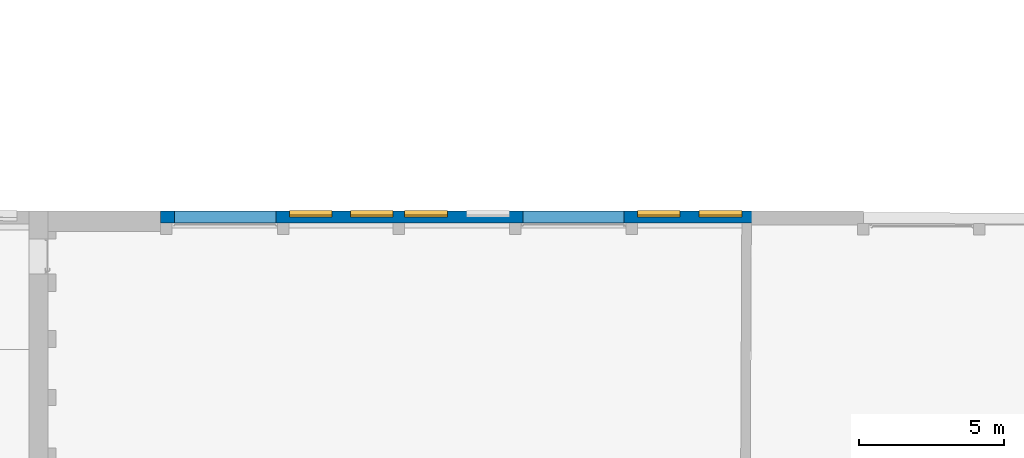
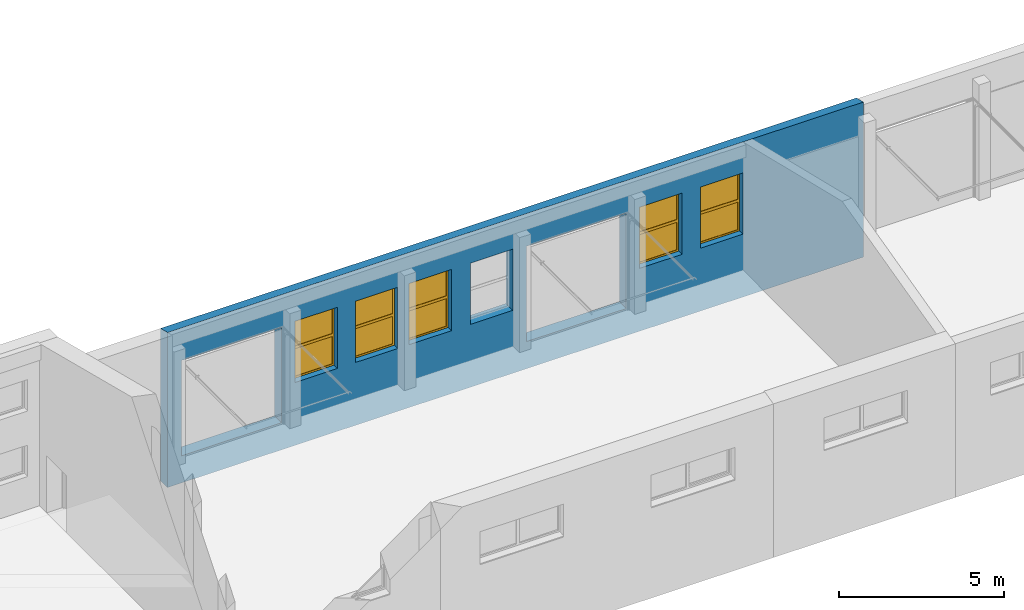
# One storey, part 109 of 301: 5 windows, 1 wall, 8 openings.
"""IFC2X3 building model written with IfcOpenShell, lengths in millimetres."""

from ifc_helpers import new_model, entity, si_unit, converted_unit, derived_unit, money_unit, direction, frame, origin_with_axes, place, context, subcontext, project, spatial, open_shell, faceted_brep, surface_model, source, transform, mapped, material, type_object, element, fill, save


model = new_model("IFC2X3")

# Units and contexts
model_context = context("Model", 3, precision=0.01, world=origin_with_axes(), true_north=direction((0.0, 1.0)))
body_context = subcontext(model_context, "Body", "Model", "MODEL_VIEW")
ifc_project = project(units=[si_unit("LENGTHUNIT", "METRE", prefix="MILLI"), si_unit("AREAUNIT", "SQUARE_METRE"), si_unit("VOLUMEUNIT", "CUBIC_METRE"), converted_unit("PLANEANGLEUNIT", "DEGREE", entity("IfcPlaneAngleMeasure", 0.0174532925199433), si_unit("PLANEANGLEUNIT", "RADIAN"), dimensions=[0, 0, 0, 0, 0, 0, 0]), money_unit("EUR"), converted_unit("TIMEUNIT", "Year", entity("IfcTimeMeasure", 31557600.0), si_unit("TIMEUNIT", "SECOND"), dimensions=[0, 0, 1, 0, 0, 0, 0]), si_unit("MASSUNIT", "GRAM", prefix="KILO"), si_unit("THERMODYNAMICTEMPERATUREUNIT", "DEGREE_CELSIUS"), si_unit("LUMINOUSINTENSITYUNIT", "LUMEN"), si_unit("ENERGYUNIT", "JOULE", prefix="MEGA"), derived_unit("THERMALCONDUCTANCEUNIT", [(si_unit("POWERUNIT", "WATT"), 1), (si_unit("LENGTHUNIT", "METRE"), -1), (si_unit("THERMODYNAMICTEMPERATUREUNIT", "KELVIN"), -1)]), derived_unit("SPECIFICHEATCAPACITYUNIT", [(si_unit("ENERGYUNIT", "JOULE"), 1), (si_unit("MASSUNIT", "GRAM", prefix="KILO"), -1), (si_unit("THERMODYNAMICTEMPERATUREUNIT", "KELVIN"), -1)]), derived_unit("MASSDENSITYUNIT", [(si_unit("MASSUNIT", "GRAM", prefix="KILO"), 1), (si_unit("VOLUMEUNIT", "CUBIC_METRE"), -1)])], contexts=[model_context])

# Site, building, storey
site_placement = place(None, frame((0.0, 0.0, 8650.0), z_axis=(0.0, 0.0, 1.0), x_axis=(1.0, 0.0, 0.0)))
site = spatial("IfcSite", under=ifc_project, at=site_placement, Name="43301:001:0844", CompositionType="ELEMENT")
building_placement = place(site_placement, origin_with_axes())
building = spatial("IfcBuilding", under=site, at=building_placement, Name="Kuressaare Ametikooli tuulikute mehaanikute õppekorpus", CompositionType="ELEMENT")
storey_placement = place(building_placement, origin_with_axes())
storey = spatial("IfcBuildingStorey", under=building, at=storey_placement, Name="1.korrus", CompositionType="ELEMENT", Elevation=0.0)

# Wall, openings, windows
ifc_material = material(Name="GENEERILINE - KONSTRUKTRIOON")
wall_type = type_object("IfcWallType", Name="GENEERILINE - KONSTRUKTRIOON 420", PredefinedType="NOTDEFINED")
wall_placement = place(storey_placement, frame((180433.6538294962, 26292.98866271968, -1000.0), z_axis=(0.0, 0.0, 1.0), x_axis=(-1.0, 0.0, 0.0)))
wall = element("IfcWall", 1, at=wall_placement, inside=storey, type_object=wall_type, material=ifc_material, Name="VS-XX", context=body_context, shape_type="Brep", body=[
    faceted_brep([(24292.4157313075, 0.0, 5621.162288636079), (0.0, 0.0, 5621.162288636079), (0.0, 0.0, 0.0), (24292.4157313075, 0.0, 0.0), (19842.75388563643, 0.0, 2320.0), (18362.75388563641, 0.0, 2320.0), (18362.75388563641, 0.0, 4580.0), (19842.75388563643, 0.0, 4580.0), (16255.77241427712, 0.0, 4580.0), (17735.77241427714, 0.0, 4580.0), (17735.77241427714, 0.0, 2320.0), (16255.77241427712, 0.0, 2320.0), (15856.32928317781, 0.0, 2320.0), (14376.3292831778, 0.0, 2320.0), (14376.3292831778, 0.0, 4580.0), (15856.32928317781, 0.0, 4580.0), (12238.67527039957, 0.0, 4580.0), (13718.67527039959, 0.0, 4580.0), (13718.67527039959, 0.0, 2320.0), (12238.67527039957, 0.0, 2320.0), (7813.675270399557, 0.0, 2320.0), (6333.675270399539, 0.0, 2320.0), (6333.675270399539, 0.0, 4580.0), (7813.675270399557, 0.0, 4580.0), (4203.620199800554, 0.0, 4580.0), (5683.620199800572, 0.0, 4580.0), (5683.620199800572, 0.0, 2320.0), (4203.620199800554, 0.0, 2320.0), (11759.78144380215, 0.0, 1000.0), (8279.781443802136, 0.0, 1000.0), (8279.781443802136, 0.0, 4520.0), (11759.78144380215, 0.0, 4520.0), (23809.78144380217, 0.0, 4520.0), (23809.78144380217, 0.0, 1000.0), (20309.78144380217, 0.0, 1000.0), (20309.78144380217, 0.0, 4520.0), (0.0, 420.0000000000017, 5724.101802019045), (24292.4157313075, 419.9999999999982, 5724.101802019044), (0.0, 420.0000000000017, 0.0), (24292.4157313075, 419.9999999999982, 0.0), (19842.75388563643, 149.999999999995, 2320.0), (18362.75388563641, 149.9999999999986, 2320.0), (18362.75388563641, 149.9999999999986, 4580.0), (19842.75388563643, 149.9999999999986, 4580.0), (17735.77241427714, 149.9999999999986, 4580.0), (16255.77241427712, 149.9999999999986, 4580.0), (17735.77241427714, 149.999999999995, 2320.0), (16255.77241427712, 149.9999999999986, 2320.0), (15856.32928317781, 149.999999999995, 2320.0), (14376.3292831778, 149.9999999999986, 2320.0), (14376.3292831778, 149.9999999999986, 4580.0), (15856.32928317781, 149.9999999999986, 4580.0), (13718.67527039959, 149.9999999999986, 4580.0), (12238.67527039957, 150.0000000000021, 4580.0), (13718.67527039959, 149.9999999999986, 2320.0), (12238.67527039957, 150.0000000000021, 2320.0), (7813.675270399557, 149.9999999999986, 2320.0), (6333.675270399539, 150.0000000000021, 2320.0), (6333.675270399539, 150.0000000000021, 4580.0), (7813.675270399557, 149.9999999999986, 4580.0), (5683.620199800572, 149.9999999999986, 4580.0), (4203.620199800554, 150.0000000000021, 4580.0), (5683.620199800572, 149.9999999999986, 2320.0), (4203.620199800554, 150.0000000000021, 2320.0), (11759.78144380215, 420.0000000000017, 1000.0), (8279.781443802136, 420.0000000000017, 1000.0), (8279.781443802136, 420.0000000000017, 4520.0), (11759.78144380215, 420.0000000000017, 4520.0), (23809.78144380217, 419.9999999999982, 1000.0), (23809.78144380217, 419.9999999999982, 4520.0), (20309.78144380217, 419.9999999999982, 1000.0), (20309.78144380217, 419.9999999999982, 4520.0), (18362.75388563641, 419.9999999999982, 2320.0), (19842.75388563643, 419.9999999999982, 2320.0), (19842.75388563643, 419.9999999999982, 4580.0), (18362.75388563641, 419.9999999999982, 4580.0), (17735.77241427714, 420.0000000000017, 4580.0), (16255.77241427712, 420.0000000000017, 4580.0), (16255.77241427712, 420.0000000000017, 2320.0), (17735.77241427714, 420.0000000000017, 2320.0), (14376.3292831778, 419.9999999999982, 2320.0), (15856.32928317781, 419.9999999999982, 2320.0), (15856.32928317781, 419.9999999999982, 4580.0), (14376.3292831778, 419.9999999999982, 4580.0), (13718.67527039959, 420.0000000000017, 4580.0), (12238.67527039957, 420.0000000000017, 4580.0), (12238.67527039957, 420.0000000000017, 2320.0), (13718.67527039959, 420.0000000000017, 2320.0), (6333.675270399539, 419.9999999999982, 2320.0), (7813.675270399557, 419.9999999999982, 2320.0), (7813.675270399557, 419.9999999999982, 4580.0), (6333.675270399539, 419.9999999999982, 4580.0), (5683.620199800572, 420.0000000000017, 4580.0), (4203.620199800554, 420.0000000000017, 4580.0), (4203.620199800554, 420.0000000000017, 2320.0), (5683.620199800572, 420.0000000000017, 2320.0)], [[[0, 1, 2, 3], [4, 5, 6, 7], [8, 9, 10, 11], [12, 13, 14, 15], [16, 17, 18, 19], [20, 21, 22, 23], [24, 25, 26, 27], [28, 29, 30, 31], [32, 33, 34, 35]], [[36, 1, 0, 37]], [[1, 36, 38, 2]], [[39, 3, 2, 38]], [[37, 0, 3, 39]], [[4, 40, 41, 5]], [[5, 41, 42, 6]], [[6, 42, 43, 7]], [[7, 43, 40, 4]], [[44, 9, 8, 45]], [[46, 10, 9, 44]], [[47, 11, 10, 46]], [[45, 8, 11, 47]], [[12, 48, 49, 13]], [[13, 49, 50, 14]], [[14, 50, 51, 15]], [[15, 51, 48, 12]], [[52, 17, 16, 53]], [[54, 18, 17, 52]], [[55, 19, 18, 54]], [[53, 16, 19, 55]], [[20, 56, 57, 21]], [[21, 57, 58, 22]], [[22, 58, 59, 23]], [[23, 59, 56, 20]], [[60, 25, 24, 61]], [[62, 26, 25, 60]], [[63, 27, 26, 62]], [[61, 24, 27, 63]], [[29, 28, 64, 65]], [[30, 29, 65, 66]], [[31, 30, 66, 67]], [[28, 31, 67, 64]], [[68, 33, 32, 69]], [[70, 34, 33, 68]], [[71, 35, 34, 70]], [[69, 32, 35, 71]], [[36, 37, 39, 38], [72, 73, 74, 75], [76, 77, 78, 79], [80, 81, 82, 83], [84, 85, 86, 87], [88, 89, 90, 91], [92, 93, 94, 95], [64, 67, 66, 65], [70, 68, 69, 71]], [[72, 41, 40, 73]], [[75, 42, 41, 72]], [[74, 43, 42, 75]], [[73, 40, 43, 74]], [[45, 77, 76, 44]], [[44, 76, 79, 46]], [[46, 79, 78, 47]], [[47, 78, 77, 45]], [[80, 49, 48, 81]], [[83, 50, 49, 80]], [[82, 51, 50, 83]], [[81, 48, 51, 82]], [[53, 85, 84, 52]], [[52, 84, 87, 54]], [[54, 87, 86, 55]], [[55, 86, 85, 53]], [[88, 57, 56, 89]], [[91, 58, 57, 88]], [[90, 59, 58, 91]], [[89, 56, 59, 90]], [[61, 93, 92, 60]], [[60, 92, 95, 62]], [[62, 95, 94, 63]], [[63, 94, 93, 61]]]),
])
opening_1_placement = place(wall_placement, frame((19102.75388563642, 0.0, 2320.0), z_axis=(0.0, 0.0, 1.0), x_axis=(1.0, 0.0, 0.0)))
opening_1 = element("IfcOpeningElement", 2, at=opening_1_placement, cuts=wall, Name="VA-XX", context=body_context, shape_type="Brep", body=[
    faceted_brep([(740.0000000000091, 149.9999999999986, 2260.0), (-740.0000000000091, 149.9999999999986, 2260.0), (-740.0000000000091, -1.000000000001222, 2260.0), (740.0000000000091, -1.000000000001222, 2260.0), (740.0000000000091, 421.00000000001, 2260.0), (-740.0000000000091, 421.00000000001, 2260.0), (-740.0000000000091, 149.9999999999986, 0.0), (-740.0000000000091, -1.000000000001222, 0.0), (740.0000000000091, -1.000000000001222, 0.0), (740.0000000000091, 149.999999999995, 0.0), (740.0000000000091, 421.0000000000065, 0.0), (-740.0000000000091, 421.00000000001, 0.0)], [[[0, 1, 2, 3]], [[1, 0, 4, 5]], [[1, 6, 7, 2]], [[2, 7, 8, 3]], [[9, 0, 3, 8]], [[0, 9, 10, 4]], [[4, 10, 11, 5]], [[6, 1, 5, 11]], [[6, 9, 8, 7]], [[9, 6, 11, 10]]]),
])
opening_2_placement = place(wall_placement, frame((15116.32928317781, 0.0, 2320.0), z_axis=(0.0, 0.0, 1.0), x_axis=(1.0, 0.0, 0.0)))
opening_2 = element("IfcOpeningElement", 3, at=opening_2_placement, cuts=wall, Name="VA-XX", context=body_context, shape_type="Brep", body=[
    faceted_brep([(740.0000000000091, 149.9999999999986, 2260.0), (-740.0000000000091, 149.9999999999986, 2260.0), (-740.0000000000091, -1.000000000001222, 2260.0), (740.0000000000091, -1.000000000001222, 2260.0), (740.0000000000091, 421.0000000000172, 2260.0), (-740.0000000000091, 421.0000000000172, 2260.0), (-740.0000000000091, 149.9999999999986, 0.0), (-740.0000000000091, -1.000000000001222, 0.0), (740.0000000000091, -1.000000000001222, 0.0), (740.0000000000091, 149.999999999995, 0.0), (740.0000000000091, 421.0000000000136, 0.0), (-740.0000000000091, 421.0000000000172, 0.0)], [[[0, 1, 2, 3]], [[1, 0, 4, 5]], [[1, 6, 7, 2]], [[2, 7, 8, 3]], [[9, 0, 3, 8]], [[0, 9, 10, 4]], [[4, 10, 11, 5]], [[6, 1, 5, 11]], [[6, 9, 8, 7]], [[9, 6, 11, 10]]]),
])
opening_3_placement = place(wall_placement, frame((16995.77241427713, 0.0, 2320.0), z_axis=(0.0, 0.0, 1.0), x_axis=(1.0, 0.0, 0.0)))
opening_3 = element("IfcOpeningElement", 4, at=opening_3_placement, cuts=wall, Name="VA-XX", context=body_context, shape_type="Brep", body=[
    faceted_brep([(740.0000000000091, 149.9999999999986, 2260.0), (-740.0000000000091, 149.9999999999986, 2260.0), (-740.0000000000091, -1.000000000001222, 2260.0), (740.0000000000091, -1.000000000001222, 2260.0), (740.0000000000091, 421.0000000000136, 2260.0), (-740.0000000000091, 421.0000000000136, 2260.0), (-740.0000000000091, 149.9999999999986, 0.0), (-740.0000000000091, -1.000000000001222, 0.0), (740.0000000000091, -1.000000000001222, 0.0), (740.0000000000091, 149.999999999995, 0.0), (740.0000000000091, 421.00000000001, 0.0), (-740.0000000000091, 421.0000000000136, 0.0)], [[[0, 1, 2, 3]], [[1, 0, 4, 5]], [[1, 6, 7, 2]], [[2, 7, 8, 3]], [[9, 0, 3, 8]], [[0, 9, 10, 4]], [[4, 10, 11, 5]], [[6, 1, 5, 11]], [[6, 9, 8, 7]], [[9, 6, 11, 10]]]),
])
opening_4_placement = place(wall_placement, frame((12978.67527039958, 0.0, 2320.0), z_axis=(0.0, 0.0, 1.0), x_axis=(1.0, 0.0, 0.0)))
element("IfcOpeningElement", 5, at=opening_4_placement, cuts=wall, Name="VA-XX", context=body_context, shape_type="Brep", body=[
    faceted_brep([(740.0000000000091, 149.9999999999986, 2260.0), (-740.0000000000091, 150.0000000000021, 2260.0), (-740.0000000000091, -1.000000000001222, 2260.0), (740.0000000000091, -1.000000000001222, 2260.0), (740.0000000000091, 421.0000000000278, 2260.0), (-740.0000000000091, 421.0000000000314, 2260.0), (-740.0000000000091, 150.0000000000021, 0.0), (-740.0000000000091, -1.000000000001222, 0.0), (740.0000000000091, -1.000000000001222, 0.0), (740.0000000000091, 149.9999999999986, 0.0), (740.0000000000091, 421.0000000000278, 0.0), (-740.0000000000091, 421.0000000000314, 0.0)], [[[0, 1, 2, 3]], [[1, 0, 4, 5]], [[1, 6, 7, 2]], [[2, 7, 8, 3]], [[9, 0, 3, 8]], [[0, 9, 10, 4]], [[4, 10, 11, 5]], [[6, 1, 5, 11]], [[6, 9, 8, 7]], [[9, 6, 11, 10]]]),
])
opening_5_placement = place(wall_placement, frame((7073.675270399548, 0.0, 2320.0), z_axis=(0.0, 0.0, 1.0), x_axis=(1.0, 0.0, 0.0)))
opening_5 = element("IfcOpeningElement", 6, at=opening_5_placement, cuts=wall, Name="VA-XX", context=body_context, shape_type="Brep", body=[
    faceted_brep([(740.0000000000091, 149.9999999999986, 2260.0), (-740.0000000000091, 150.0000000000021, 2260.0), (-740.0000000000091, -1.000000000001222, 2260.0), (740.0000000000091, -1.000000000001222, 2260.0), (740.0000000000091, 421.000000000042, 2260.0), (-740.0000000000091, 421.0000000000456, 2260.0), (-740.0000000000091, 150.0000000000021, 0.0), (-740.0000000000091, -1.000000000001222, 0.0), (740.0000000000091, -1.000000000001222, 0.0), (740.0000000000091, 149.9999999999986, 0.0), (740.0000000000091, 421.000000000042, 0.0), (-740.0000000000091, 421.0000000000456, 0.0)], [[[0, 1, 2, 3]], [[1, 0, 4, 5]], [[1, 6, 7, 2]], [[2, 7, 8, 3]], [[9, 0, 3, 8]], [[0, 9, 10, 4]], [[4, 10, 11, 5]], [[6, 1, 5, 11]], [[6, 9, 8, 7]], [[9, 6, 11, 10]]]),
])
opening_6_placement = place(wall_placement, frame((10019.78144380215, 0.0, 1000.0), z_axis=(0.0, 0.0, 1.0), x_axis=(1.0, 0.0, 0.0)))
element("IfcOpeningElement", 7, at=opening_6_placement, cuts=wall, context=body_context, shape_type="Brep", body=[
    faceted_brep([(1740.000000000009, 421.0000000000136, 3520.0), (1740.000000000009, 421.00000000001, 0.0), (-1740.000000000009, 421.0000000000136, 0.0), (-1740.000000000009, 421.0000000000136, 3520.0), (1740.000000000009, -1.000000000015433, 3520.0), (1740.000000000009, -1.000000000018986, 0.0), (-1740.000000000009, -1.000000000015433, 0.0), (-1740.000000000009, -1.000000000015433, 3520.0)], [[[0, 1, 2, 3]], [[4, 5, 1, 0]], [[5, 6, 2, 1]], [[6, 7, 3, 2]], [[7, 4, 0, 3]], [[6, 5, 4, 7]]]),
])
opening_7_placement = place(wall_placement, frame((22059.78144380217, 0.0, 1000.0), z_axis=(0.0, 0.0, 1.0), x_axis=(1.0, 0.0, 0.0)))
element("IfcOpeningElement", 8, at=opening_7_placement, cuts=wall, context=body_context, shape_type="Brep", body=[
    faceted_brep([(1750.0, 421.0000000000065, 3520.0), (1750.0, 421.000000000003, 0.0), (-1750.0, 421.0000000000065, 0.0), (-1750.0, 421.0000000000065, 3520.0), (1750.0, -1.00000000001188, 3520.0), (1750.0, -1.000000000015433, 0.0), (-1750.0, -1.00000000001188, 0.0), (-1750.0, -1.00000000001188, 3520.0)], [[[0, 1, 2, 3]], [[4, 5, 1, 0]], [[5, 6, 2, 1]], [[6, 7, 3, 2]], [[7, 4, 0, 3]], [[6, 5, 4, 7]]]),
])
opening_8_placement = place(wall_placement, frame((4943.620199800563, 0.0, 2320.0), z_axis=(0.0, 0.0, 1.0), x_axis=(1.0, 0.0, 0.0)))
opening_8 = element("IfcOpeningElement", 9, at=opening_8_placement, cuts=wall, Name="VA-XX", context=body_context, shape_type="Brep", body=[
    faceted_brep([(740.0000000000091, 149.9999999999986, 2260.0), (-740.0000000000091, 150.0000000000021, 2260.0), (-740.0000000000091, -1.000000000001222, 2260.0), (740.0000000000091, -1.000000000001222, 2260.0), (740.0000000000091, 421.0000000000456, 2260.0), (-740.0000000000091, 421.0000000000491, 2260.0), (-740.0000000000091, 150.0000000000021, 0.0), (-740.0000000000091, -1.000000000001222, 0.0), (740.0000000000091, -1.000000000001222, 0.0), (740.0000000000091, 149.9999999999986, 0.0), (740.0000000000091, 421.0000000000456, 0.0), (-740.0000000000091, 421.0000000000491, 0.0)], [[[0, 1, 2, 3]], [[1, 0, 4, 5]], [[1, 6, 7, 2]], [[2, 7, 8, 3]], [[9, 0, 3, 8]], [[0, 9, 10, 4]], [[4, 10, 11, 5]], [[6, 1, 5, 11]], [[6, 9, 8, 7]], [[9, 6, 11, 10]]]),
])
window_style = type_object("IfcWindowStyle", Name="Window 27", ConstructionType="NOTDEFINED", OperationType="DOUBLE_PANEL_HORIZONTAL", ParameterTakesPrecedence=False, Sizeable=False)
shared_shape = source(origin_with_axes(), body_context, "Body", "SurfaceModel", [
    surface_model("IfcShellBasedSurfaceModel", [(-740.0000000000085, -66.0, 39.99999999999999), (-740.0000000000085, -66.0, 30.0), (740.0000000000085, -66.0, 30.00000000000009), (740.0000000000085, -66.0, 40.00000000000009), (-740.0000000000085, -225.0, 8.666666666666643), (740.0000000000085, -225.0, 8.666666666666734), (-740.0000000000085, -225.0, -11.33333333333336), (740.0000000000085, -225.0, -11.33333333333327), (-740.0000000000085, -220.0, -6.333333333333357), (740.0000000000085, -220.0, -6.333333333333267)], [open_shell([[[0, 1, 2, 3]], [[1, 4, 5, 2]], [[4, 6, 7, 5]], [[6, 8, 9, 7]]])]),
    faceted_brep([(-680.0000000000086, -65.00000000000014, 1080.0), (-680.0000000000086, 0.0, 1080.0), (-680.0000000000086, 0.0, 1180.0), (-680.0000000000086, -65.00000000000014, 1180.0), (-680.0000000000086, -65.00000000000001, 59.99999999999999), (-680.0000000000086, 0.0, 60.0), (-740.0000000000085, 0.0, 60.0), (-740.0000000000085, 0.0, 2200.0), (-680.0000000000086, 0.0, 2200.0), (-680.0000000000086, -65.00000000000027, 2200.0), (-740.0000000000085, -65.00000000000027, 2200.0), (-740.0000000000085, -65.00000000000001, 59.99999999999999)], [[[0, 1, 2, 3]], [[4, 5, 1, 0]], [[1, 5, 6, 7, 8, 2]], [[3, 2, 8, 9]], [[0, 3, 9, 10, 11, 4]], [[11, 6, 5, 4]], [[10, 7, 6, 11]], [[9, 8, 7, 10]]]),
    faceted_brep([(680.0000000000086, -65.00000000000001, 59.99999999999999), (680.0000000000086, 0.0, 60.0), (740.0000000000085, 0.0, 60.0), (740.0000000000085, -65.00000000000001, 59.99999999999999), (680.0000000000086, -65.00000000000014, 1080.0), (680.0000000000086, 0.0, 1080.0), (680.0000000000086, 0.0, 1180.0), (680.0000000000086, 0.0, 2200.0), (740.0000000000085, 0.0, 2200.0), (740.0000000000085, -65.00000000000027, 2200.0), (680.0000000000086, -65.00000000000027, 2200.0), (680.0000000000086, -65.00000000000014, 1180.0)], [[[0, 1, 2, 3]], [[4, 5, 1, 0]], [[1, 5, 6, 7, 8, 2]], [[3, 2, 8, 9]], [[0, 3, 9, 10, 11, 4]], [[11, 6, 5, 4]], [[10, 7, 6, 11]], [[9, 8, 7, 10]]]),
    faceted_brep([(-680.0000000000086, -65.00000000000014, 1180.0), (-680.0000000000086, 0.0, 1180.0), (-680.0000000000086, 0.0, 1080.0), (-680.0000000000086, -65.00000000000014, 1080.0), (680.0000000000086, -65.00000000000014, 1180.0), (680.0000000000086, 0.0, 1180.0), (680.0000000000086, 0.0, 1080.0), (680.0000000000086, -65.00000000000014, 1080.0)], [[[0, 1, 2, 3]], [[4, 5, 1, 0]], [[1, 5, 6, 2]], [[3, 2, 6, 7]], [[0, 3, 7, 4]], [[7, 6, 5, 4]]]),
    faceted_brep([(-680.0000000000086, -65.00000000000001, 59.99999999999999), (-680.0000000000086, 0.0, 60.0), (-740.0000000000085, 0.0, 60.0), (-740.0000000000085, -65.00000000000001, 59.99999999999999), (680.0000000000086, -65.00000000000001, 59.99999999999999), (680.0000000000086, 0.0, 60.0), (740.0000000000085, 0.0, 60.0), (740.0000000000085, 0.0, 0.0), (-740.0000000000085, 0.0, 0.0), (-740.0000000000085, -65.0, 0.0), (740.0000000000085, -65.0, 0.0), (740.0000000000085, -65.00000000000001, 59.99999999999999)], [[[0, 1, 2, 3]], [[4, 5, 1, 0]], [[1, 5, 6, 7, 8, 2]], [[3, 2, 8, 9]], [[0, 3, 9, 10, 11, 4]], [[11, 6, 5, 4]], [[10, 7, 6, 11]], [[9, 8, 7, 10]]]),
    faceted_brep([(680.0000000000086, -65.00000000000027, 2200.0), (680.0000000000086, 0.0, 2200.0), (740.0000000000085, 0.0, 2200.0), (740.0000000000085, -65.00000000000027, 2200.0), (-680.0000000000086, -65.00000000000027, 2200.0), (-680.0000000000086, 0.0, 2200.0), (-740.0000000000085, 0.0, 2200.0), (-740.0000000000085, 0.0, 2260.0), (740.0000000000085, 0.0, 2260.0), (740.0000000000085, -65.00000000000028, 2260.0), (-740.0000000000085, -65.00000000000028, 2260.0), (-740.0000000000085, -65.00000000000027, 2200.0)], [[[0, 1, 2, 3]], [[4, 5, 1, 0]], [[1, 5, 6, 7, 8, 2]], [[3, 2, 8, 9]], [[0, 3, 9, 10, 11, 4]], [[11, 6, 5, 4]], [[10, 7, 6, 11]], [[9, 8, 7, 10]]]),
    surface_model("IfcShellBasedSurfaceModel", [(-680.0000000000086, -35.00000000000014, 1180.0), (680.0000000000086, -35.00000000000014, 1180.0), (680.0000000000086, -35.00000000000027, 2200.0), (-680.0000000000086, -35.00000000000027, 2200.0)], [open_shell([[[0, 1, 2, 3]]])]),
    surface_model("IfcShellBasedSurfaceModel", [(-680.0000000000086, -15.00000000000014, 1180.0), (-680.0000000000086, -15.00000000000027, 2200.0), (680.0000000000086, -15.00000000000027, 2200.0), (680.0000000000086, -15.00000000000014, 1180.0)], [open_shell([[[0, 1, 2, 3]]])]),
    surface_model("IfcShellBasedSurfaceModel", [(-680.0000000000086, -35.0, 59.99999999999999), (680.0000000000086, -35.0, 59.99999999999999), (680.0000000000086, -35.00000000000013, 1080.0), (-680.0000000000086, -35.00000000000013, 1080.0)], [open_shell([[[0, 1, 2, 3]]])]),
    surface_model("IfcShellBasedSurfaceModel", [(-680.0000000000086, -15.0, 59.99999999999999), (-680.0000000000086, -15.00000000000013, 1080.0), (680.0000000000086, -15.00000000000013, 1080.0), (680.0000000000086, -15.0, 59.99999999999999)], [open_shell([[[0, 1, 2, 3]]])]),
])
window_1_placement = place(opening_1_placement, frame((-740.0000000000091, 0.0, 0.0), z_axis=(0.0, 0.0, 1.0), x_axis=(1.0, 0.0, 0.0)))
window_1 = element("IfcWindow", 10, at=window_1_placement, inside=storey, type_object=window_style, Name="VA-XX", OverallHeight=2260.0, OverallWidth=1480.0, context=body_context, shape_type="MappedRepresentation", body=[
    mapped(shared_shape, transform((740.0000000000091, 214.9999999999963, 0.0))),
])
fill(opening_1, window_1)
window_2_placement = place(opening_3_placement, frame((-740.0000000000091, 0.0, 0.0), z_axis=(0.0, 0.0, 1.0), x_axis=(1.0, 0.0, 0.0)))
window_2 = element("IfcWindow", 11, at=window_2_placement, inside=storey, type_object=window_style, Name="VA-XX", OverallHeight=2260.0, OverallWidth=1480.0, context=body_context, shape_type="MappedRepresentation", body=[
    mapped(shared_shape, transform((740.0000000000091, 214.9999999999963, 0.0))),
])
fill(opening_3, window_2)
window_3_placement = place(opening_2_placement, frame((-740.0000000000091, 0.0, 0.0), z_axis=(0.0, 0.0, 1.0), x_axis=(1.0, 0.0, 0.0)))
window_3 = element("IfcWindow", 12, at=window_3_placement, inside=storey, type_object=window_style, Name="VA-XX", OverallHeight=2260.0, OverallWidth=1480.0, context=body_context, shape_type="MappedRepresentation", body=[
    mapped(shared_shape, transform((740.0000000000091, 214.9999999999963, 0.0))),
])
fill(opening_2, window_3)
window_4_placement = place(opening_5_placement, frame((-740.0000000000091, 0.0, 0.0), z_axis=(0.0, 0.0, 1.0), x_axis=(1.0, 0.0, 0.0)))
window_4 = element("IfcWindow", 13, at=window_4_placement, inside=storey, type_object=window_style, Name="VA-XX", OverallHeight=2260.0, OverallWidth=1480.0, context=body_context, shape_type="MappedRepresentation", body=[
    mapped(shared_shape, transform((740.0000000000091, 214.9999999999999, 0.0))),
])
fill(opening_5, window_4)
window_5_placement = place(opening_8_placement, frame((-740.0000000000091, 0.0, 0.0), z_axis=(0.0, 0.0, 1.0), x_axis=(1.0, 0.0, 0.0)))
window_5 = element("IfcWindow", 14, at=window_5_placement, inside=storey, type_object=window_style, Name="VA-XX", OverallHeight=2260.0, OverallWidth=1480.0, context=body_context, shape_type="MappedRepresentation", body=[
    mapped(shared_shape, transform((740.0000000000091, 214.9999999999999, 0.0))),
])
fill(opening_8, window_5)

save(model, "model.ifc")
